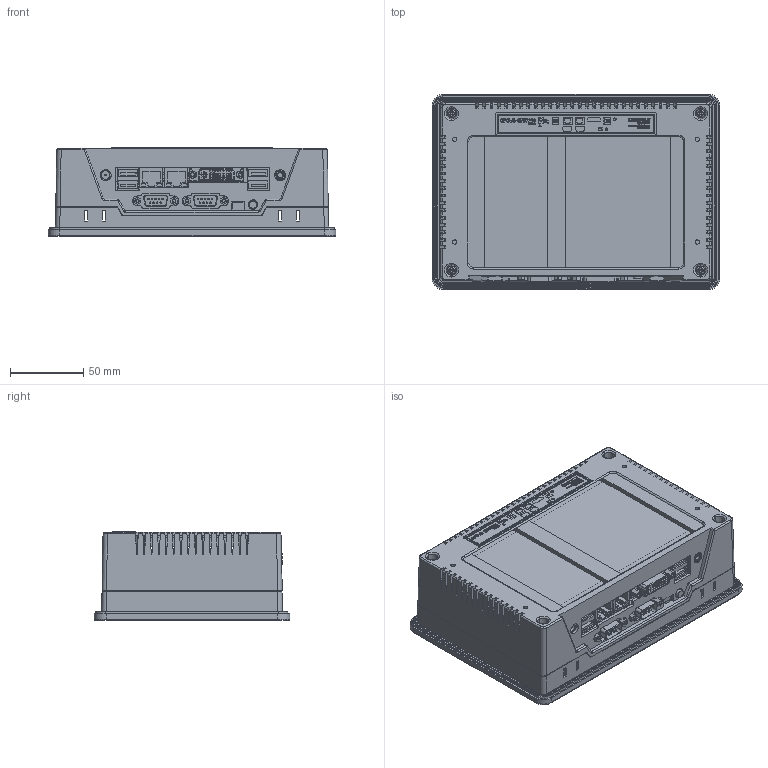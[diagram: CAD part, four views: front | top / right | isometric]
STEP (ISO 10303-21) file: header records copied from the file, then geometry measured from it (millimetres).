
FILE_DESCRIPTION (( 'STEP AP214' ), '1' );
FILE_NAME ('CPCV5-070WRB_ASM.STEP', '2016-11-18T07:57:35', ( 'Registered User' ), ( 'Microsoft Corporation' ), 'SwSTEP 2.0', 'SolidWorks 2016', '' );
FILE_SCHEMA (( 'AUTOMOTIVE_DESIGN' ));
Length unit declared in the file: millimetre
Products named in the file (1): CPCV5-070WRB_ASM
Bounding box: 196 x 133 x 60.5 mm (x, y, z)
Surface area: 436229.5 mm2 (no closed solid volume)
Topology: 0 solids, 119 shells, 4805 faces, 14335 edges, 9693 vertices
Faces by surface type: plane 3412, cylinder 782, bspline 395, torus 102, cone 88, sphere 26
Entity records: 226717 total; most frequent: CARTESIAN_POINT 48738, ORIENTED_EDGE 26119, DIRECTION 23318, EDGE_CURVE 14309, VECTOR 11254, LINE 11254, VERTEX_POINT 9682, AXIS2_PLACEMENT_3D 6032
